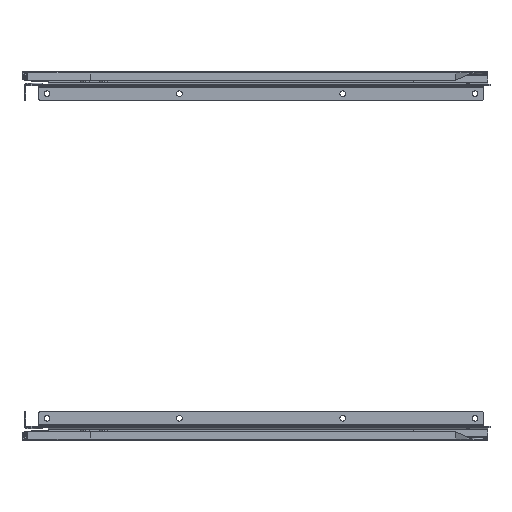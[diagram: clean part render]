
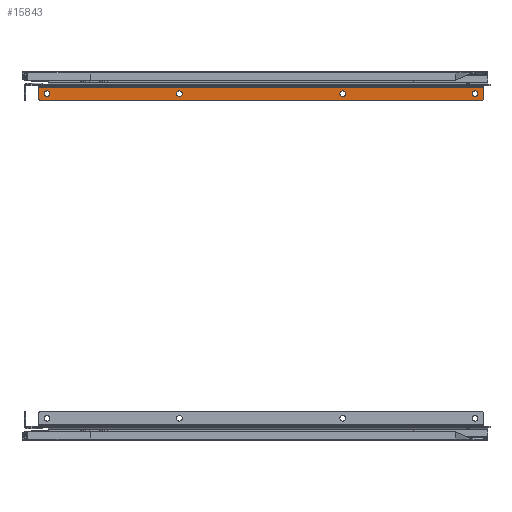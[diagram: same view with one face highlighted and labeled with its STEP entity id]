
A CAD part, front view. The second image highlights one B-rep face of the part: STEP entity #15843.
In plain terms, the highlighted planar face has unit normal (0, -1, 0).
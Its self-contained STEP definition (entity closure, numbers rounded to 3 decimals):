
#213 = CARTESIAN_POINT ( 'NONE',  ( 8.4, -0.7, -11.85 ) ) ;
#280 = ORIENTED_EDGE ( 'NONE', *, *, #4019, .T. ) ;
#325 = AXIS2_PLACEMENT_3D ( 'NONE', #19274, #5567, #13383 ) ;
#355 = CARTESIAN_POINT ( 'NONE',  ( 0., -0.7, -3.324 ) ) ;
#395 = LINE ( 'NONE', #9600, #10870 ) ;
#500 = CARTESIAN_POINT ( 'NONE',  ( 422.4, -0.7, -11.85 ) ) ;
#573 = EDGE_CURVE ( 'NONE', #9636, #20038, #3077, .T. ) ;
#728 = VERTEX_POINT ( 'NONE', #13462 ) ;
#905 = LINE ( 'NONE', #12793, #19706 ) ;
#917 = DIRECTION ( 'NONE',  ( 0., 1., 0. ) ) ;
#1287 = CIRCLE ( 'NONE', #13943, 2.75 ) ;
#1570 = AXIS2_PLACEMENT_3D ( 'NONE', #15456, #7526, #1668 ) ;
#1668 = DIRECTION ( 'NONE',  ( 0., 0., 1. ) ) ;
#1734 = EDGE_LOOP ( 'NONE', ( #22951, #15170 ) ) ;
#1961 = EDGE_CURVE ( 'NONE', #7575, #9330, #17486, .T. ) ;
#2041 = FACE_BOUND ( 'NONE', #22065, .T. ) ;
#2446 = EDGE_CURVE ( 'NONE', #5505, #5012, #11370, .T. ) ;
#2472 = VERTEX_POINT ( 'NONE', #17932 ) ;
#2528 = CARTESIAN_POINT ( 'NONE',  ( 422.4, -0.7, -9.1 ) ) ;
#3077 = CIRCLE ( 'NONE', #18978, 2.75 ) ;
#3415 = AXIS2_PLACEMENT_3D ( 'NONE', #24336, #917, #12297 ) ;
#3471 = PLANE ( 'NONE',  #1570 ) ;
#3480 = EDGE_CURVE ( 'NONE', #20038, #9636, #1287, .T. ) ;
#3780 = DIRECTION ( 'NONE',  ( 0., 0., 1. ) ) ;
#3853 = AXIS2_PLACEMENT_3D ( 'NONE', #24025, #16061, #14415 ) ;
#4019 = EDGE_CURVE ( 'NONE', #14880, #5938, #395, .T. ) ;
#5012 = VERTEX_POINT ( 'NONE', #213 ) ;
#5483 = FACE_BOUND ( 'NONE', #1734, .T. ) ;
#5505 = VERTEX_POINT ( 'NONE', #8478 ) ;
#5567 = DIRECTION ( 'NONE',  ( 0., 1., 0. ) ) ;
#5788 = DIRECTION ( 'NONE',  ( 0., 1., 0. ) ) ;
#5938 = VERTEX_POINT ( 'NONE', #10364 ) ;
#6048 = AXIS2_PLACEMENT_3D ( 'NONE', #20908, #5788, #3780 ) ;
#6173 = VERTEX_POINT ( 'NONE', #15597 ) ;
#6296 = AXIS2_PLACEMENT_3D ( 'NONE', #2528, #10293, #14273 ) ;
#6431 = VECTOR ( 'NONE', #9194, 1000. ) ;
#7526 = DIRECTION ( 'NONE',  ( 0., 1., 0. ) ) ;
#7575 = VERTEX_POINT ( 'NONE', #8801 ) ;
#7825 = CARTESIAN_POINT ( 'NONE',  ( 294.4, -0.7, -11.85 ) ) ;
#8141 = CIRCLE ( 'NONE', #17949, 2.75 ) ;
#8182 = DIRECTION ( 'NONE',  ( 0., 0., -1. ) ) ;
#8241 = AXIS2_PLACEMENT_3D ( 'NONE', #18417, #8298, #18021 ) ;
#8298 = DIRECTION ( 'NONE',  ( 0., -1., 0. ) ) ;
#8478 = CARTESIAN_POINT ( 'NONE',  ( 8.4, -0.7, -6.35 ) ) ;
#8647 = ORIENTED_EDGE ( 'NONE', *, *, #23102, .F. ) ;
#8744 = CARTESIAN_POINT ( 'NONE',  ( 294.4, -0.7, -9.1 ) ) ;
#8801 = CARTESIAN_POINT ( 'NONE',  ( 136.4, -0.7, -11.85 ) ) ;
#9009 = ORIENTED_EDGE ( 'NONE', *, *, #573, .T. ) ;
#9125 = EDGE_LOOP ( 'NONE', ( #9009, #25105 ) ) ;
#9194 = DIRECTION ( 'NONE',  ( -1., 0., 0. ) ) ;
#9330 = VERTEX_POINT ( 'NONE', #10982 ) ;
#9600 = CARTESIAN_POINT ( 'NONE',  ( 0., -0.7, -3.324 ) ) ;
#9636 = VERTEX_POINT ( 'NONE', #20452 ) ;
#9972 = CIRCLE ( 'NONE', #6296, 2.75 ) ;
#10012 = EDGE_CURVE ( 'NONE', #22211, #17410, #9972, .T. ) ;
#10293 = DIRECTION ( 'NONE',  ( 0., 1., 0. ) ) ;
#10364 = CARTESIAN_POINT ( 'NONE',  ( 0., -0.7, -13. ) ) ;
#10620 = EDGE_LOOP ( 'NONE', ( #14024, #12677 ) ) ;
#10668 = CARTESIAN_POINT ( 'NONE',  ( 294.4, -0.7, -9.1 ) ) ;
#10684 = CIRCLE ( 'NONE', #3415, 2.75 ) ;
#10870 = VECTOR ( 'NONE', #8182, 1000. ) ;
#10898 = ORIENTED_EDGE ( 'NONE', *, *, #18323, .T. ) ;
#10982 = CARTESIAN_POINT ( 'NONE',  ( 136.4, -0.7, -6.35 ) ) ;
#11110 = CARTESIAN_POINT ( 'NONE',  ( 430.8, -0.7, -16. ) ) ;
#11302 = DIRECTION ( 'NONE',  ( 0., 1., 0. ) ) ;
#11370 = CIRCLE ( 'NONE', #6048, 2.75 ) ;
#11402 = CIRCLE ( 'NONE', #12214, 2.75 ) ;
#12016 = VERTEX_POINT ( 'NONE', #14811 ) ;
#12214 = AXIS2_PLACEMENT_3D ( 'NONE', #22307, #12690, #18579 ) ;
#12297 = DIRECTION ( 'NONE',  ( 0., 0., 1. ) ) ;
#12465 = DIRECTION ( 'NONE',  ( 0., 0., 1. ) ) ;
#12677 = ORIENTED_EDGE ( 'NONE', *, *, #1961, .T. ) ;
#12690 = DIRECTION ( 'NONE',  ( 0., 1., 0. ) ) ;
#12712 = DIRECTION ( 'NONE',  ( 0., 1., 0. ) ) ;
#12793 = CARTESIAN_POINT ( 'NONE',  ( 430.8, -0.7, -3.324 ) ) ;
#13082 = CARTESIAN_POINT ( 'NONE',  ( 430.8, -0.7, -3.324 ) ) ;
#13383 = DIRECTION ( 'NONE',  ( 0., 0., 1. ) ) ;
#13462 = CARTESIAN_POINT ( 'NONE',  ( 430.8, -0.7, -13. ) ) ;
#13943 = AXIS2_PLACEMENT_3D ( 'NONE', #10668, #14775, #18490 ) ;
#14024 = ORIENTED_EDGE ( 'NONE', *, *, #14212, .T. ) ;
#14164 = EDGE_LOOP ( 'NONE', ( #280, #17973, #22215, #17137, #8647, #23493 ) ) ;
#14212 = EDGE_CURVE ( 'NONE', #9330, #7575, #11402, .T. ) ;
#14273 = DIRECTION ( 'NONE',  ( 0., 0., 1. ) ) ;
#14415 = DIRECTION ( 'NONE',  ( 0., 0., 1. ) ) ;
#14556 = EDGE_CURVE ( 'NONE', #12016, #14880, #905, .T. ) ;
#14775 = DIRECTION ( 'NONE',  ( 0., 1., 0. ) ) ;
#14811 = CARTESIAN_POINT ( 'NONE',  ( 430.8, -0.7, -3.324 ) ) ;
#14880 = VERTEX_POINT ( 'NONE', #355 ) ;
#15086 = LINE ( 'NONE', #11110, #6431 ) ;
#15170 = ORIENTED_EDGE ( 'NONE', *, *, #10012, .T. ) ;
#15456 = CARTESIAN_POINT ( 'NONE',  ( 430.8, -0.7, -3.324 ) ) ;
#15588 = FACE_BOUND ( 'NONE', #9125, .T. ) ;
#15597 = CARTESIAN_POINT ( 'NONE',  ( 427.8, -0.7, -16. ) ) ;
#15843 = ADVANCED_FACE ( 'NONE', ( #2041, #17500, #15588, #5483, #19190 ), #3471, .F. ) ;
#16061 = DIRECTION ( 'NONE',  ( 0., -1., 0. ) ) ;
#16949 = EDGE_CURVE ( 'NONE', #6173, #2472, #15086, .T. ) ;
#17137 = ORIENTED_EDGE ( 'NONE', *, *, #23714, .T. ) ;
#17410 = VERTEX_POINT ( 'NONE', #20702 ) ;
#17486 = CIRCLE ( 'NONE', #325, 2.75 ) ;
#17500 = FACE_BOUND ( 'NONE', #10620, .T. ) ;
#17901 = ORIENTED_EDGE ( 'NONE', *, *, #2446, .T. ) ;
#17932 = CARTESIAN_POINT ( 'NONE',  ( 3., -0.7, -16. ) ) ;
#17949 = AXIS2_PLACEMENT_3D ( 'NONE', #24890, #11302, #22975 ) ;
#17973 = ORIENTED_EDGE ( 'NONE', *, *, #20592, .T. ) ;
#18021 = DIRECTION ( 'NONE',  ( 0., 0., 1. ) ) ;
#18323 = EDGE_CURVE ( 'NONE', #5012, #5505, #8141, .T. ) ;
#18417 = CARTESIAN_POINT ( 'NONE',  ( 3., -0.7, -13. ) ) ;
#18490 = DIRECTION ( 'NONE',  ( 0., 0., 1. ) ) ;
#18579 = DIRECTION ( 'NONE',  ( 0., 0., 1. ) ) ;
#18861 = CIRCLE ( 'NONE', #8241, 3. ) ;
#18978 = AXIS2_PLACEMENT_3D ( 'NONE', #8744, #12712, #12465 ) ;
#19190 = FACE_OUTER_BOUND ( 'NONE', #14164, .T. ) ;
#19274 = CARTESIAN_POINT ( 'NONE',  ( 136.4, -0.7, -9.1 ) ) ;
#19706 = VECTOR ( 'NONE', #24564, 1000. ) ;
#19833 = DIRECTION ( 'NONE',  ( 0., 0., -1. ) ) ;
#20038 = VERTEX_POINT ( 'NONE', #7825 ) ;
#20452 = CARTESIAN_POINT ( 'NONE',  ( 294.4, -0.7, -6.35 ) ) ;
#20592 = EDGE_CURVE ( 'NONE', #5938, #2472, #18861, .T. ) ;
#20702 = CARTESIAN_POINT ( 'NONE',  ( 422.4, -0.7, -6.35 ) ) ;
#20908 = CARTESIAN_POINT ( 'NONE',  ( 8.4, -0.7, -9.1 ) ) ;
#21387 = VECTOR ( 'NONE', #19833, 1000. ) ;
#21801 = EDGE_CURVE ( 'NONE', #17410, #22211, #10684, .T. ) ;
#22065 = EDGE_LOOP ( 'NONE', ( #17901, #10898 ) ) ;
#22211 = VERTEX_POINT ( 'NONE', #500 ) ;
#22215 = ORIENTED_EDGE ( 'NONE', *, *, #16949, .F. ) ;
#22307 = CARTESIAN_POINT ( 'NONE',  ( 136.4, -0.7, -9.1 ) ) ;
#22951 = ORIENTED_EDGE ( 'NONE', *, *, #21801, .T. ) ;
#22975 = DIRECTION ( 'NONE',  ( 0., 0., 1. ) ) ;
#23102 = EDGE_CURVE ( 'NONE', #12016, #728, #24614, .T. ) ;
#23433 = CIRCLE ( 'NONE', #3853, 3. ) ;
#23493 = ORIENTED_EDGE ( 'NONE', *, *, #14556, .T. ) ;
#23714 = EDGE_CURVE ( 'NONE', #6173, #728, #23433, .T. ) ;
#24025 = CARTESIAN_POINT ( 'NONE',  ( 427.8, -0.7, -13. ) ) ;
#24336 = CARTESIAN_POINT ( 'NONE',  ( 422.4, -0.7, -9.1 ) ) ;
#24564 = DIRECTION ( 'NONE',  ( -1., 0., 0. ) ) ;
#24614 = LINE ( 'NONE', #13082, #21387 ) ;
#24890 = CARTESIAN_POINT ( 'NONE',  ( 8.4, -0.7, -9.1 ) ) ;
#25105 = ORIENTED_EDGE ( 'NONE', *, *, #3480, .T. ) ;
